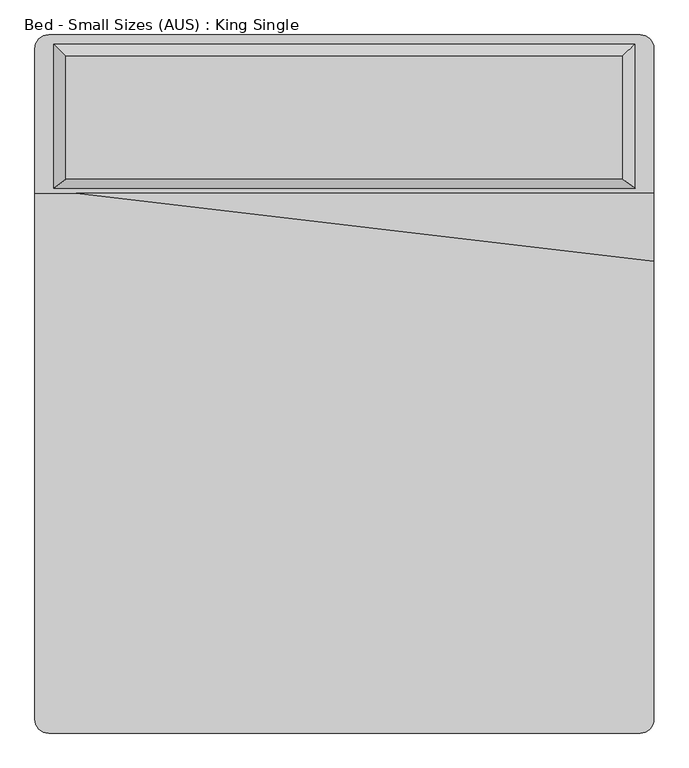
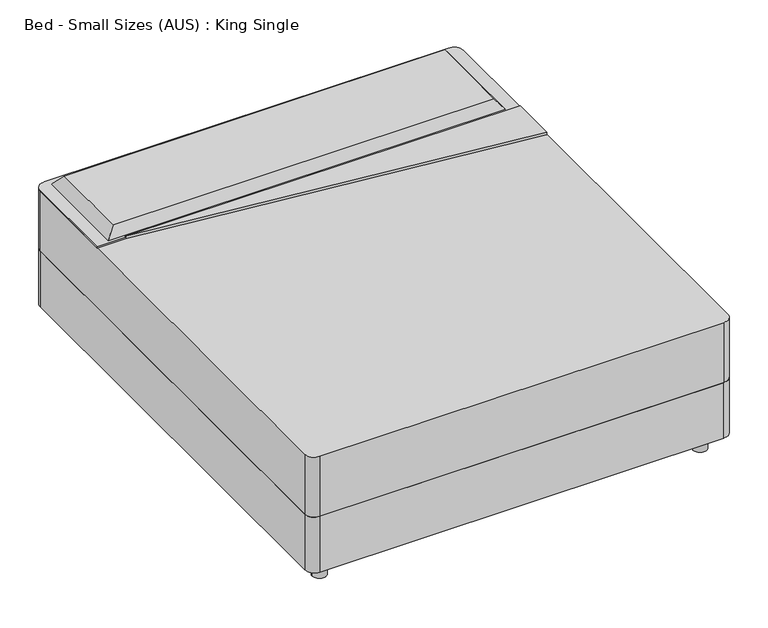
"""IFC4 building model written with IfcOpenShell, lengths in millimetres: furniture geometry, Bed - Small Sizes (AUS) : King Single."""

from ifc_helpers import new_model, si_unit, point, frame, frame_2d, origin, origin_with_axes, place, context, project, spatial, polyline, circle_curve, trimmed, segment, composite_curve, outline, extrude, faceted_brep, source, transform, mapped, element, save


def bed_small_sizes_aus_king_single_10816c3c(model_context):
    return source(origin(), model_context, "Body", "SolidModel", [
        faceted_brep([(787.3259905, -420.0, 650.0), (787.3259905, -60.0, 650.0), (-832.6740095, -60.0, 650.0), (-832.6740095, -420.0, 650.0), (822.4579512, -446.2118726, 605.0), (-867.5420488, -446.2118726, 605.0), (-867.5420488, -26.2118726, 605.0), (822.4579512, -26.2118726, 605.0)], [[[0, 1, 2, 3]], [[4, 5, 6, 7]], [[4, 7, 1, 0]], [[7, 6, 2, 1]], [[6, 5, 3, 2]], [[5, 4, 0, 3]]]),
        extrude(outline(composite_curve([segment(trimmed(circle_curve(frame_2d((-832.6740095, -90.0)), 30.0), [point((-862.6740095, -90.0))], [point((-802.6740095, -90.0))], False, "CARTESIAN"), True, "CONTINUOUS"), segment(trimmed(circle_curve(frame_2d((-832.6740095, -90.0)), 30.0), [point((-802.6740095, -90.0))], [point((-862.6740095, -90.0))], False, "CARTESIAN"), True, "CONTINUOUS")], self_intersect=False)), origin_with_axes(), (0.0, 0.0, 1.0), 80.0),
        extrude(outline(composite_curve([segment(trimmed(circle_curve(frame_2d((787.3259905, -90.0)), 30.0), [point((757.3259905, -90.0))], [point((817.3259905, -90.0))], False, "CARTESIAN"), True, "CONTINUOUS"), segment(trimmed(circle_curve(frame_2d((787.3259905, -90.0)), 30.0), [point((817.3259905, -90.0))], [point((757.3259905, -90.0))], False, "CARTESIAN"), True, "CONTINUOUS")], self_intersect=False)), origin_with_axes(), (0.0, 0.0, 1.0), 80.0),
        extrude(outline(composite_curve([segment(trimmed(circle_curve(frame_2d((-832.6740095, -1940.0)), 30.0), [point((-862.6740095, -1940.0))], [point((-802.6740095, -1940.0))], False, "CARTESIAN"), True, "CONTINUOUS"), segment(trimmed(circle_curve(frame_2d((-832.6740095, -1940.0)), 30.0), [point((-802.6740095, -1940.0))], [point((-862.6740095, -1940.0))], False, "CARTESIAN"), True, "CONTINUOUS")], self_intersect=False)), origin_with_axes(), (0.0, 0.0, 1.0), 80.0),
        extrude(outline(composite_curve([segment(trimmed(circle_curve(frame_2d((787.3259905, -1940.0)), 30.0), [point((757.3259905, -1940.0))], [point((817.3259905, -1940.0))], False, "CARTESIAN"), True, "CONTINUOUS"), segment(trimmed(circle_curve(frame_2d((787.3259905, -1940.0)), 30.0), [point((817.3259905, -1940.0))], [point((757.3259905, -1940.0))], False, "CARTESIAN"), True, "CONTINUOUS")], self_intersect=False)), origin_with_axes(), (0.0, 0.0, 1.0), 80.0),
        extrude(outline(composite_curve([segment(polyline([(837.3259905, -2030.0), (-882.6740095, -2030.0)]), True, "CONTINUOUS"), segment(trimmed(circle_curve(frame_2d((-882.6740095, -1990.0)), 40.0), [point((-882.6740095, -2030.0))], [point((-922.6740095, -1990.0))], False, "CARTESIAN"), True, "CONTINUOUS"), segment(polyline([(-922.6740095, -1990.0), (-922.6740095, -40.0)]), True, "CONTINUOUS"), segment(trimmed(circle_curve(frame_2d((-882.6740095, -40.0)), 40.0), [point((-922.6740095, -40.0))], [point((-882.6740095, 0.0))], False, "CARTESIAN"), True, "CONTINUOUS"), segment(polyline([(-882.6740095, 0.0), (837.3259905, 0.0)]), True, "CONTINUOUS"), segment(trimmed(circle_curve(frame_2d((837.3259905, -40.0)), 40.0), [point((837.3259905, 0.0))], [point((877.3259905, -40.0))], False, "CARTESIAN"), True, "CONTINUOUS"), segment(polyline([(877.3259905, -40.0), (877.3259905, -1990.0)]), True, "CONTINUOUS"), segment(trimmed(circle_curve(frame_2d((837.3259905, -1990.0)), 40.0), [point((877.3259905, -1990.0))], [point((837.3259905, -2030.0))], False, "CARTESIAN"), True, "CONTINUOUS")], self_intersect=False)), frame((0.0, 0.0, 80.0), z_axis=(0.0, 0.0, 1.0), x_axis=(1.0, 0.0, 0.0)), (0.0, 0.0, 1.0), 250.0),
        extrude(outline(composite_curve([segment(polyline([(877.3259905, -460.0), (-922.6740095, -460.0), (-922.6740095, -40.0)]), True, "CONTINUOUS"), segment(trimmed(circle_curve(frame_2d((-882.6740095, -40.0)), 40.0), [point((-922.6740095, -40.0))], [point((-882.6740095, 0.0))], False, "CARTESIAN"), True, "CONTINUOUS"), segment(polyline([(-882.6740095, 0.0), (837.3259905, 0.0)]), True, "CONTINUOUS"), segment(trimmed(circle_curve(frame_2d((837.3259905, -40.0)), 40.0), [point((837.3259905, 0.0))], [point((877.3259905, -40.0))], False, "CARTESIAN"), True, "CONTINUOUS"), segment(polyline([(877.3259905, -40.0), (877.3259905, -460.0)]), True, "CONTINUOUS")], self_intersect=False)), frame((0.0, 0.0, 600.0), z_axis=(0.0, 0.0, 1.0), x_axis=(1.0, 0.0, 0.0)), (0.0, 0.0, 1.0), 5.0),
        extrude(outline(polyline([(877.3259905, -460.0), (877.3259905, -657.6776024), (-802.6740095, -460.0), (877.3259905, -460.0)])), frame((0.0, 0.0, 600.0), z_axis=(0.0, 0.0, 1.0), x_axis=(1.0, 0.0, 0.0)), (0.0, 0.0, 1.0), 10.0),
        extrude(outline(composite_curve([segment(trimmed(circle_curve(frame_2d((-882.6740095, -40.0)), 40.0), [point((-922.6740095, -40.0))], [point((-882.6740095, 0.0))], False, "CARTESIAN"), True, "CONTINUOUS"), segment(polyline([(-882.6740095, 0.0), (837.3259905, 0.0)]), True, "CONTINUOUS"), segment(trimmed(circle_curve(frame_2d((837.3259905, -40.0)), 40.0), [point((837.3259905, 0.0))], [point((877.3259905, -40.0))], False, "CARTESIAN"), True, "CONTINUOUS"), segment(polyline([(877.3259905, -40.0), (877.3259905, -1990.0)]), True, "CONTINUOUS"), segment(trimmed(circle_curve(frame_2d((837.3259905, -1990.0)), 40.0), [point((877.3259905, -1990.0))], [point((837.3259905, -2030.0))], False, "CARTESIAN"), True, "CONTINUOUS"), segment(polyline([(837.3259905, -2030.0), (-882.6740095, -2030.0)]), True, "CONTINUOUS"), segment(trimmed(circle_curve(frame_2d((-882.6740095, -1990.0)), 40.0), [point((-882.6740095, -2030.0))], [point((-922.6740095, -1990.0))], False, "CARTESIAN"), True, "CONTINUOUS"), segment(polyline([(-922.6740095, -1990.0), (-922.6740095, -40.0)]), True, "CONTINUOUS")], self_intersect=False)), frame((0.0, 0.0, 330.0), z_axis=(0.0, 0.0, 1.0), x_axis=(1.0, 0.0, 0.0)), (0.0, 0.0, 1.0), 270.0),
    ])


if __name__ == "__main__":
    model = new_model("IFC4")
    model_context = context("Model", 3, world=origin())
    ifc_project = project(units=[si_unit("LENGTHUNIT", "METRE", prefix="MILLI")], contexts=[model_context])
    site = spatial("IfcSite", under=ifc_project)
    building = spatial("IfcBuilding", under=site)
    placement = place(None, origin())
    bed_small_sizes_aus_king_single_shape = bed_small_sizes_aus_king_single_10816c3c(model_context)
    element("IfcFurniture", 1, ObjectType="Bed - Small Sizes (AUS) : King Single", at=placement, inside=building, context=model_context, shape_type="MappedRepresentation", body=[
        mapped(bed_small_sizes_aus_king_single_shape, transform((0.0, 0.0, 0.0), x_axis=(1.0, 0.0, 0.0), y_axis=(0.0, 1.0, 0.0), z_axis=(0.0, 0.0, 1.0))),
    ])
    save(model, "model.ifc")
